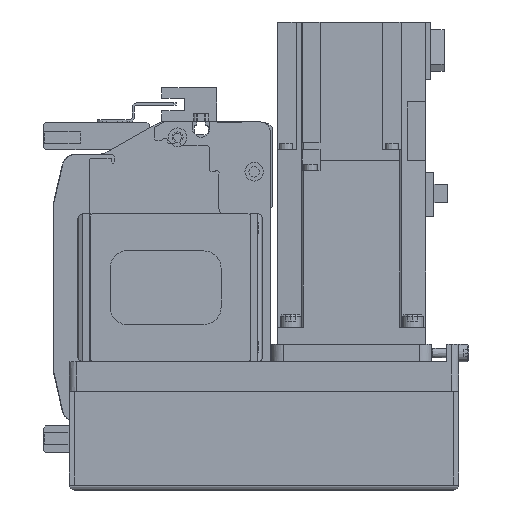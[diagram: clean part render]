
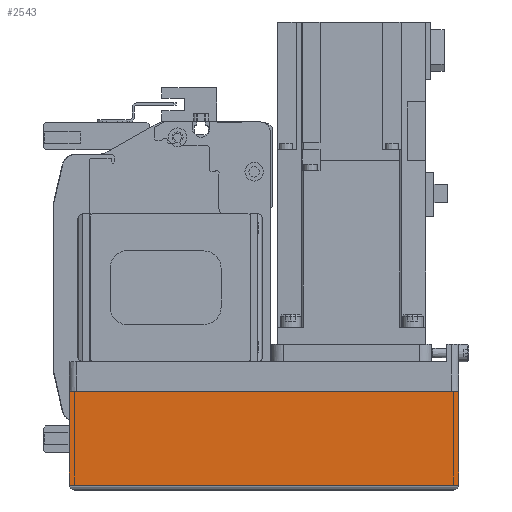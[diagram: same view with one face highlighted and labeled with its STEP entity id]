
A CAD part, left-side view. The second image highlights one B-rep face of the part: STEP entity #2543.
In plain terms, the highlighted planar face has unit normal (-1, 0, 0) as drawn and (0, 1, 0) by its records, which use the part's own axes.
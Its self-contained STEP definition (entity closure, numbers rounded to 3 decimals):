
#2543 = ADVANCED_FACE( '', ( #5725 ), #5726, .T. );
#5725 = FACE_OUTER_BOUND( '', #9601, .T. );
#5726 = PLANE( '', #9602 );
#9601 = EDGE_LOOP( '', ( #16876, #16877, #16878, #16879 ) );
#9602 = AXIS2_PLACEMENT_3D( '', #16880, #16881, #16882 );
#16876 = ORIENTED_EDGE( '', *, *, #22596, .F. );
#16877 = ORIENTED_EDGE( '', *, *, #22349, .F. );
#16878 = ORIENTED_EDGE( '', *, *, #24286, .T. );
#16879 = ORIENTED_EDGE( '', *, *, #24287, .T. );
#16880 = CARTESIAN_POINT( '', ( -158., 39., -50. ) );
#16881 = DIRECTION( '', ( 0., 1., 0. ) );
#16882 = DIRECTION( '', ( 0., 0., 1. ) );
#22349 = EDGE_CURVE( '', #26891, #26894, #26895, .T. );
#22596 = EDGE_CURVE( '', #26894, #27302, #27303, .T. );
#24286 = EDGE_CURVE( '', #26891, #29878, #29879, .T. );
#24287 = EDGE_CURVE( '', #29878, #27302, #29880, .T. );
#26891 = VERTEX_POINT( '', #33390 );
#26894 = VERTEX_POINT( '', #33393 );
#26895 = LINE( '', #33394, #33395 );
#27302 = VERTEX_POINT( '', #34002 );
#27303 = LINE( '', #34003, #34004 );
#29878 = VERTEX_POINT( '', #38247 );
#29879 = LINE( '', #38248, #38249 );
#29880 = LINE( '', #38250, #38251 );
#33390 = CARTESIAN_POINT( '', ( -158., 39., -50. ) );
#33393 = CARTESIAN_POINT( '', ( 0., 39., -50. ) );
#33394 = CARTESIAN_POINT( '', ( -158., 39., -50. ) );
#33395 = VECTOR( '', #41588, 1000. );
#34002 = CARTESIAN_POINT( '', ( 0., 39., -12.1 ) );
#34003 = CARTESIAN_POINT( '', ( 0., 39., -50. ) );
#34004 = VECTOR( '', #41914, 1000. );
#38247 = CARTESIAN_POINT( '', ( -158., 39., -12.1 ) );
#38248 = CARTESIAN_POINT( '', ( -158., 39., -50. ) );
#38249 = VECTOR( '', #44011, 1000. );
#38250 = CARTESIAN_POINT( '', ( -158., 39., -12.1 ) );
#38251 = VECTOR( '', #44012, 1000. );
#41588 = DIRECTION( '', ( 1., 0., 0. ) );
#41914 = DIRECTION( '', ( 0., 0., 1. ) );
#44011 = DIRECTION( '', ( 0., 0., 1. ) );
#44012 = DIRECTION( '', ( 1., 0., 0. ) );
